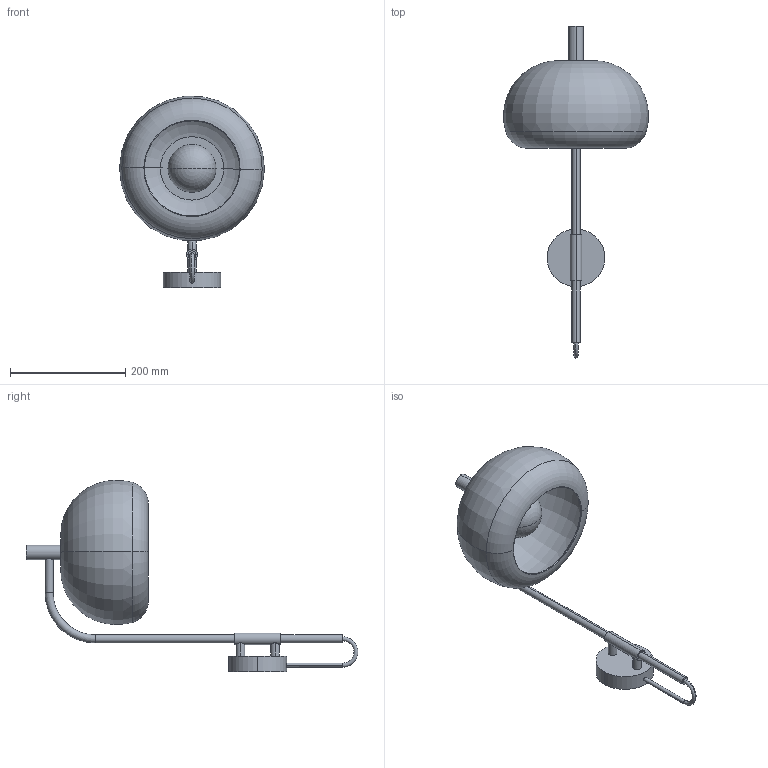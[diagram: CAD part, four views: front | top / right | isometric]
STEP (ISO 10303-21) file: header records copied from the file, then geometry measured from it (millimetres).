
FILE_DESCRIPTION (( 'STEP AP214' ), '1' );
FILE_NAME ('CLOUD_A1345.STEP', '2025-09-05T08:52:57', ( '' ), ( '' ), 'SwSTEP 2.0', 'SolidWorks 2018', '' );
FILE_SCHEMA (( 'AUTOMOTIVE_DESIGN' ));
Length unit declared in the file: millimetre
Products named in the file (1): CLOUD_A1345
Bounding box: 251.67 x 575.83 x 332.14 mm (x, y, z)
Surface area: 393878.2 mm2 (no closed solid volume)
Topology: 0 solids, 8 shells, 62 faces, 125 edges, 77 vertices
Faces by surface type: cylinder 27, torus 18, plane 17
Entity records: 2722 total; most frequent: CARTESIAN_POINT 611, DIRECTION 319, ORIENTED_EDGE 242, AXIS2_PLACEMENT_3D 145, EDGE_CURVE 123, CIRCLE 82, VERTEX_POINT 77, UNCERTAINTY_MEASURE_WITH_UNIT 71
